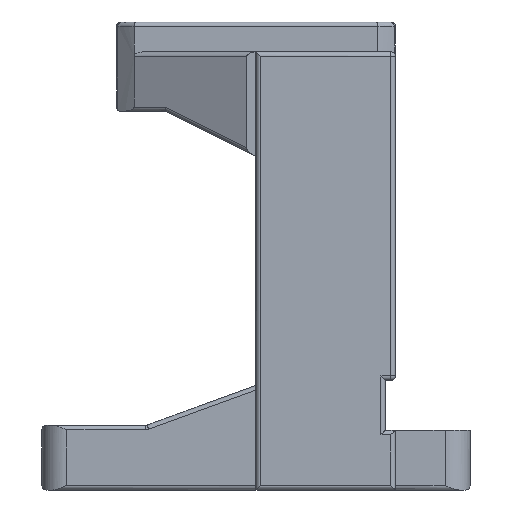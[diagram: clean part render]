
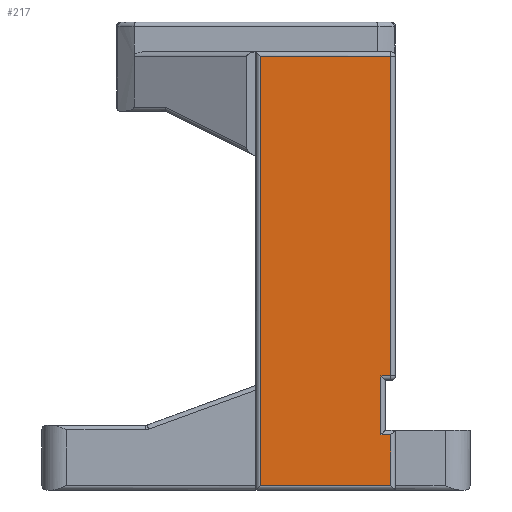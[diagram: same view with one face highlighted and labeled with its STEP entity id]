
A CAD part, left-side view. The second image highlights one B-rep face of the part: STEP entity #217.
In plain terms, the highlighted planar face has unit normal (-1, 0, 0).
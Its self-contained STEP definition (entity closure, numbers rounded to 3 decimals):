
#45 = EDGE_LOOP ( 'NONE', ( #4884, #4697, #1980, #4365, #2921, #6344, #4003, #6002 ) ) ;
#112 = CARTESIAN_POINT ( 'NONE',  ( -44., -0.9, 81. ) ) ;
#148 = DIRECTION ( 'NONE',  ( 0., 0., -1. ) ) ;
#157 = EDGE_CURVE ( 'NONE', #6751, #6042, #4166, .T. ) ;
#217 = ADVANCED_FACE ( 'NONE', ( #4862 ), #1292, .F. ) ;
#281 = LINE ( 'NONE', #880, #1580 ) ;
#308 = CARTESIAN_POINT ( 'NONE',  ( -44., -27.1, 80.1 ) ) ;
#327 = DIRECTION ( 'NONE',  ( 0., 1., 0. ) ) ;
#780 = DIRECTION ( 'NONE',  ( 0., 1., 0. ) ) ;
#880 = CARTESIAN_POINT ( 'NONE',  ( -44., -28., 15.9 ) ) ;
#964 = VECTOR ( 'NONE', #148, 1000. ) ;
#1272 = DIRECTION ( 'NONE',  ( 0., 0., 1. ) ) ;
#1292 = PLANE ( 'NONE',  #2835 ) ;
#1294 = EDGE_CURVE ( 'NONE', #3259, #6490, #6096, .T. ) ;
#1580 = VECTOR ( 'NONE', #4691, 1000. ) ;
#1596 = CARTESIAN_POINT ( 'NONE',  ( -44., -28., -6.1 ) ) ;
#1646 = EDGE_CURVE ( 'NONE', #3209, #3172, #4448, .T. ) ;
#1972 = VERTEX_POINT ( 'NONE', #4407 ) ;
#1980 = ORIENTED_EDGE ( 'NONE', *, *, #4168, .T. ) ;
#2424 = DIRECTION ( 'NONE',  ( 0., 0., 1. ) ) ;
#2591 = CARTESIAN_POINT ( 'NONE',  ( -44., -0.9, 80.1 ) ) ;
#2835 = AXIS2_PLACEMENT_3D ( 'NONE', #4293, #4625, #327 ) ;
#2921 = ORIENTED_EDGE ( 'NONE', *, *, #4416, .T. ) ;
#2944 = LINE ( 'NONE', #6246, #4543 ) ;
#3172 = VERTEX_POINT ( 'NONE', #308 ) ;
#3209 = VERTEX_POINT ( 'NONE', #3320 ) ;
#3259 = VERTEX_POINT ( 'NONE', #2591 ) ;
#3320 = CARTESIAN_POINT ( 'NONE',  ( -44., -27.1, 15.9 ) ) ;
#3562 = CARTESIAN_POINT ( 'NONE',  ( -44., 0., 80.1 ) ) ;
#3816 = VECTOR ( 'NONE', #4109, 1000. ) ;
#4003 = ORIENTED_EDGE ( 'NONE', *, *, #5519, .T. ) ;
#4109 = DIRECTION ( 'NONE',  ( 0., 1., 0. ) ) ;
#4166 = LINE ( 'NONE', #7078, #4672 ) ;
#4168 = EDGE_CURVE ( 'NONE', #6598, #6751, #2944, .T. ) ;
#4242 = EDGE_CURVE ( 'NONE', #6490, #1972, #6959, .T. ) ;
#4293 = CARTESIAN_POINT ( 'NONE',  ( -44., -28., 81. ) ) ;
#4365 = ORIENTED_EDGE ( 'NONE', *, *, #157, .T. ) ;
#4393 = VECTOR ( 'NONE', #5852, 1000. ) ;
#4407 = CARTESIAN_POINT ( 'NONE',  ( -44., -27.1, -6.1 ) ) ;
#4416 = EDGE_CURVE ( 'NONE', #6042, #3209, #281, .T. ) ;
#4448 = LINE ( 'NONE', #5854, #4393 ) ;
#4543 = VECTOR ( 'NONE', #780, 1000. ) ;
#4625 = DIRECTION ( 'NONE',  ( 1., 0., 0. ) ) ;
#4672 = VECTOR ( 'NONE', #2424, 1000. ) ;
#4691 = DIRECTION ( 'NONE',  ( 0., -1., 0. ) ) ;
#4697 = ORIENTED_EDGE ( 'NONE', *, *, #6536, .T. ) ;
#4783 = LINE ( 'NONE', #5087, #4871 ) ;
#4862 = FACE_OUTER_BOUND ( 'NONE', #45, .T. ) ;
#4871 = VECTOR ( 'NONE', #1272, 1000. ) ;
#4884 = ORIENTED_EDGE ( 'NONE', *, *, #4242, .T. ) ;
#5087 = CARTESIAN_POINT ( 'NONE',  ( -44., -27.1, 81. ) ) ;
#5375 = DIRECTION ( 'NONE',  ( 0., -1., 0. ) ) ;
#5519 = EDGE_CURVE ( 'NONE', #3172, #3259, #6228, .T. ) ;
#5613 = CARTESIAN_POINT ( 'NONE',  ( -44., -0.9, -6.1 ) ) ;
#5852 = DIRECTION ( 'NONE',  ( 0., 0., 1. ) ) ;
#5854 = CARTESIAN_POINT ( 'NONE',  ( -44., -27.1, 81. ) ) ;
#6002 = ORIENTED_EDGE ( 'NONE', *, *, #1294, .T. ) ;
#6038 = VECTOR ( 'NONE', #5375, 1000. ) ;
#6042 = VERTEX_POINT ( 'NONE', #6741 ) ;
#6096 = LINE ( 'NONE', #112, #964 ) ;
#6228 = LINE ( 'NONE', #3562, #3816 ) ;
#6246 = CARTESIAN_POINT ( 'NONE',  ( -44., -28., 4.1 ) ) ;
#6344 = ORIENTED_EDGE ( 'NONE', *, *, #1646, .T. ) ;
#6419 = CARTESIAN_POINT ( 'NONE',  ( -44., -25.1, 4.1 ) ) ;
#6490 = VERTEX_POINT ( 'NONE', #5613 ) ;
#6536 = EDGE_CURVE ( 'NONE', #1972, #6598, #4783, .T. ) ;
#6598 = VERTEX_POINT ( 'NONE', #6805 ) ;
#6741 = CARTESIAN_POINT ( 'NONE',  ( -44., -25.1, 15.9 ) ) ;
#6751 = VERTEX_POINT ( 'NONE', #6419 ) ;
#6805 = CARTESIAN_POINT ( 'NONE',  ( -44., -27.1, 4.1 ) ) ;
#6959 = LINE ( 'NONE', #1596, #6038 ) ;
#7078 = CARTESIAN_POINT ( 'NONE',  ( -44., -25.1, 15. ) ) ;
